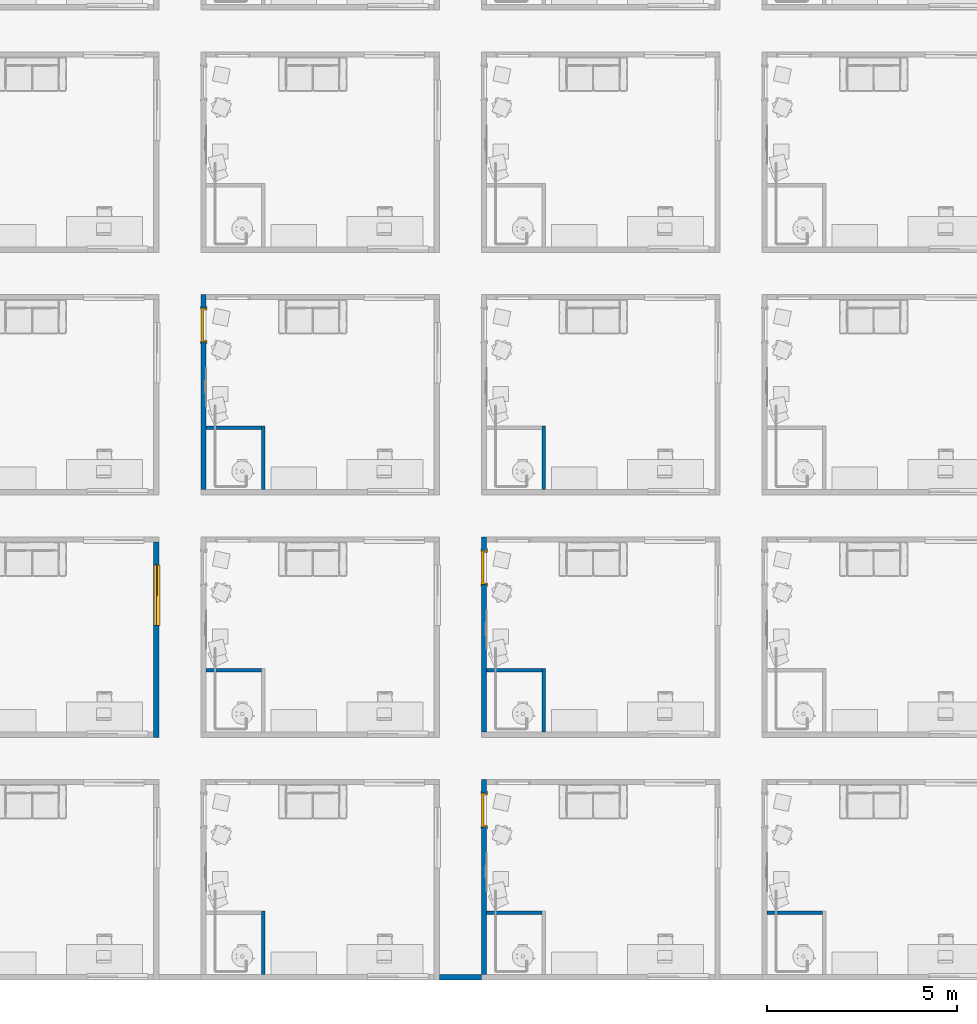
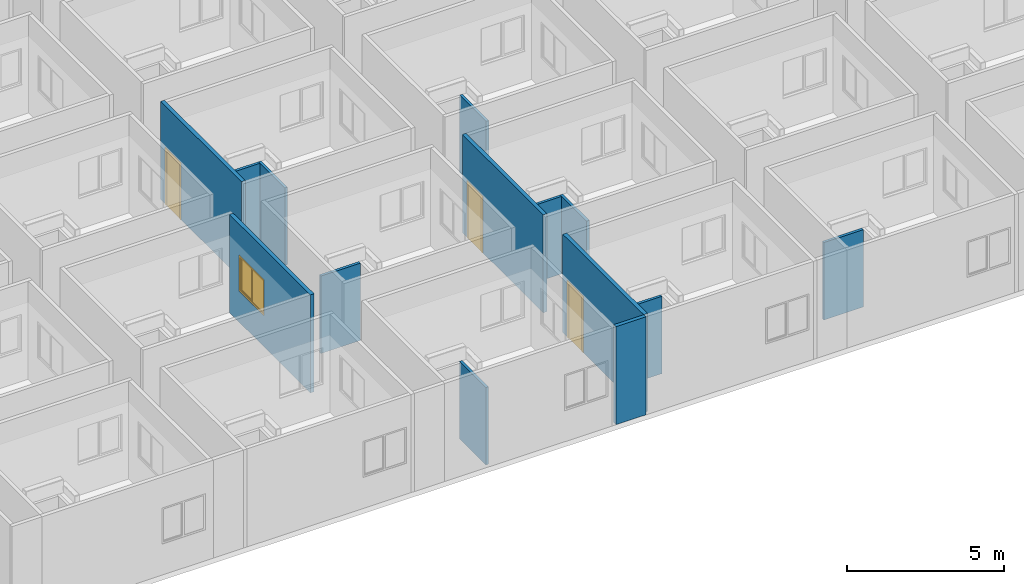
# One storey, part 7 of 72: 14 walls, 3 doors, 1 window, 4 openings.
"""IFC4 building model written with IfcOpenShell, lengths in centimetres."""

from ifc_helpers import new_model, entity, si_unit, converted_unit, derived_unit, direction, frame, origin, place, context, subcontext, project, spatial, indexed_curve, outline, extrude, polygons, source, transform, mapped, material, constituent, constituent_set, type_object, type_shapes, element, fill, save


model = new_model("IFC4")

# Units and contexts
model_context = context("Model", 3, precision=0.001, world=origin(), true_north=direction((6.123233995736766e-17, 1.0)))
body_context = subcontext(model_context, "Body", "Model", "MODEL_VIEW")
ifc_project = project(units=[si_unit("LENGTHUNIT", "METRE", prefix="CENTI"), si_unit("AREAUNIT", "SQUARE_METRE"), si_unit("VOLUMEUNIT", "CUBIC_METRE"), derived_unit("THERMALTRANSMITTANCEUNIT", [(si_unit("MASSUNIT", "GRAM", prefix="KILO"), 1), (si_unit("THERMODYNAMICTEMPERATUREUNIT", "KELVIN"), -1), (si_unit("TIMEUNIT", "SECOND"), -3)]), converted_unit("PLANEANGLEUNIT", "DEGREE", entity("IfcPlaneAngleMeasure", 0.017453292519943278), si_unit("PLANEANGLEUNIT", "RADIAN"), dimensions=[0, 0, 0, 0, 0, 0, 0]), derived_unit("MASSDENSITYUNIT", [(si_unit("MASSUNIT", "GRAM", prefix="KILO"), 1), (si_unit("LENGTHUNIT", "METRE"), -3)]), derived_unit("VAPORPERMEABILITYUNIT", [(si_unit("LENGTHUNIT", "METRE"), -1), (si_unit("TIMEUNIT", "SECOND"), 1)]), derived_unit("USERDEFINED", [(si_unit("MASSUNIT", "GRAM", prefix="KILO"), 1), (si_unit("TIMEUNIT", "SECOND"), -3), (si_unit("LENGTHUNIT", "METRE"), 3), (si_unit("ELECTRICCURRENTUNIT", "AMPERE"), -2)]), derived_unit("SPECIFICHEATCAPACITYUNIT", [(si_unit("THERMODYNAMICTEMPERATUREUNIT", "KELVIN"), -1), (si_unit("LENGTHUNIT", "METRE"), 2), (si_unit("TIMEUNIT", "SECOND"), -2)]), derived_unit("THERMALCONDUCTANCEUNIT", [(si_unit("MASSUNIT", "GRAM", prefix="KILO"), 1), (si_unit("THERMODYNAMICTEMPERATUREUNIT", "KELVIN"), -1), (si_unit("TIMEUNIT", "SECOND"), -3), (si_unit("LENGTHUNIT", "METRE"), 1)]), si_unit("PRESSUREUNIT", "PASCAL"), derived_unit("MODULUSOFELASTICITYUNIT", [(si_unit("MASSUNIT", "GRAM", prefix="KILO"), 1), (si_unit("LENGTHUNIT", "METRE"), -1), (si_unit("TIMEUNIT", "SECOND"), -2)]), derived_unit("THERMALEXPANSIONCOEFFICIENTUNIT", [(si_unit("THERMODYNAMICTEMPERATUREUNIT", "KELVIN"), -1)])], contexts=[model_context])

# Site, building, storey
site_placement = place(None, origin())
site = spatial("IfcSite", under=ifc_project, at=site_placement, Name="Default", CompositionType="ELEMENT")
building_placement = place(site_placement, origin())
building = spatial("IfcBuilding", under=site, at=building_placement, Name="IDS Escape Game Building", CompositionType="ELEMENT")
storey_placement = place(building_placement, frame((0.0, 0.0, 800.0)))
storey = spatial("IfcBuildingStorey", under=building, at=storey_placement, Name="02_Second Floor", CompositionType="ELEMENT", Elevation=800.0)

# Wall, opening, door
ifc_material_1 = material(Name="ARC_FME.g2_Fg2 Masonry_00_gen_BERSnl", Category="g - klei")
wall_type_1 = type_object("IfcWallType", Name="Basic Wall:ARC_22.10_WA_LB_SB14_gen_BERSnl", PredefinedType="STANDARD")
wall_1_placement = place(storey_placement, frame((2214.0, 527.0, 0.0), z_axis=(0.0, 0.0, 1.0), x_axis=(0.0, -1.0, 0.0)))
wall_1 = element("IfcWall", 1, at=wall_1_placement, inside=storey, type_object=wall_type_1, material=ifc_material_1, Name="Basic Wall:ARC_22.10_WA_LB_SB14_gen_BERSnl", ObjectType="Basic Wall:ARC_22.10_WA_LB_SB14_gen_BERSnl", PredefinedType="NOTDEFINED", context=body_context, shape_type="Tessellation", body=[
    polygons([(513.9999999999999, -6.999999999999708, 379.9999999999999), (0.0, -6.999999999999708, 379.9999999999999), (0.0, -6.999999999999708, -1.0828671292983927e-13), (35.999999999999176, -6.999999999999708, -1.0828671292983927e-13), (35.999999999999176, -6.999999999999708, 215.00000000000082), (125.99999999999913, -6.999999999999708, 215.00000000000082), (125.99999999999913, -6.999999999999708, -1.0828671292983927e-13), (513.9999999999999, -6.999999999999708, -1.0828671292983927e-13), (0.0, 7.000000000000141, 379.9999999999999), (13.999999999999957, 7.000000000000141, 379.9999999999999), (513.9999999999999, 7.000000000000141, 379.9999999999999), (513.9999999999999, 7.000000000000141, -1.0828671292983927e-13), (355.999999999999, 7.000000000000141, -1.0828671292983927e-13), (345.999999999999, 7.000000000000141, -1.0828671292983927e-13), (125.99999999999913, 7.000000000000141, -1.0828671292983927e-13), (125.99999999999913, 7.000000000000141, 215.00000000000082), (35.999999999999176, 7.000000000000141, 215.00000000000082), (35.999999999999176, 7.000000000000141, -1.0828671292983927e-13), (13.999999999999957, 7.000000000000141, -1.0828671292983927e-13), (0.0, 7.000000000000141, -1.0828671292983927e-13)], [[[1, 2, 3, 4, 5, 6, 7, 8]], [[9, 10, 11, 12, 13, 14, 15, 16, 17, 18, 19, 20]], [[3, 20, 19, 18, 4]], [[2, 1, 11, 10, 9]], [[17, 5, 4, 18]], [[6, 16, 15, 7]], [[5, 17, 16, 6]], [[3, 2, 9, 20]], [[1, 8, 12, 11]], [[12, 8, 7, 15, 14, 13]]], closed=True),
])
opening_1_placement = place(wall_1_placement, frame((527.0, -2214.0, 0.0), z_axis=(0.0, 0.0, 1.0), x_axis=(0.0, 1.0, 0.0)))
opening_1 = element("IfcOpeningElement", 2, at=opening_1_placement, cuts=wall_1, Name="Basic Wall:ARC_22.10_WA_LB_SB14_gen_BERSnl", PredefinedType="OPENING", context=body_context, shape_type="SweptSolid", body=[
    extrude(outline(indexed_curve([(-137.49999999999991, -45.0), (137.49999999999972, -45.0), (137.49999999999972, 44.99999999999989), (-137.49999999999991, 44.99999999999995), (-137.49999999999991, -45.0)], self_intersect=False)), frame((2124.0, 446.0, 77.50000000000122), z_axis=(1.0, 0.0, 0.0), x_axis=(0.0, 0.0, 1.0)), (0.0, 0.0, 1.0), 166.00000000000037),
])
ifc_material_2 = material(Name="ARC_FME.i3_wood_00_gen_BERSnl", Category="i - hout")
door_type = type_object("IfcDoorType", Name="ARC_32.30_DO_WB_binnendeur enkel draaiend met void_gen_BERSnl:Fire Exit_830x2115_EI60", OperationType="SINGLE_SWING_RIGHT", PredefinedType="DOOR", material=ifc_material_2)
shared_shape_1 = source(origin(), body_context, "Body", "Tessellation", [
    extrude(outline(indexed_curve([(-41.49999999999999, -3.749999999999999), (41.49999999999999, -3.749999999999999), (41.49999999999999, 3.75), (-41.49999999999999, 3.75), (-41.49999999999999, -3.749999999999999)], self_intersect=False)), frame((45.0, 79.24999999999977, 60.0), z_axis=(0.0, 0.0, 1.0), x_axis=(-1.0, 0.0, 0.0)), (0.0, 0.0, 1.0), 211.50000000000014),
    polygons([(88.99999999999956, 82.99999999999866, 59.999999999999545), (88.9999999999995, 67.99999999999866, 59.999999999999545), (94.99999999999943, 67.99999999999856, 59.999999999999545), (94.99999999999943, 66.49999999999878, 59.999999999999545), (84.99999999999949, 66.4999999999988, 59.999999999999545), (84.99999999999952, 75.49999999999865, 59.999999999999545), (86.49999999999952, 75.49999999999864, 59.999999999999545), (86.49999999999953, 84.49999999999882, 59.999999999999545), (94.99999999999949, 84.49999999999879, 59.999999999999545), (94.99999999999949, 82.99999999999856, 59.999999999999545), (88.99999999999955, 82.99999999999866, 274.0000000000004), (88.9999999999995, 67.99999999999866, 274.0000000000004), (0.9999999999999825, 67.99999999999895, 274.0000000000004), (0.9999999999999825, 67.99999999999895, 59.99999999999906), (-4.999999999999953, 67.99999999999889, 59.99999999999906), (-4.999999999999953, 67.99999999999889, 280.00000000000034), (94.99999999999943, 67.99999999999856, 280.00000000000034), (94.99999999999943, 66.49999999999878, 280.00000000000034), (-4.999999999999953, 66.4999999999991, 280.00000000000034), (-4.999999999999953, 66.4999999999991, 59.99999999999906), (4.999999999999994, 66.49999999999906, 59.99999999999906), (4.999999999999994, 66.49999999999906, 270.00000000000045), (84.99999999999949, 66.4999999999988, 270.00000000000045), (84.99999999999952, 75.49999999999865, 270.00000000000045), (5.000000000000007, 75.4999999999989, 270.00000000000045), (5.0, 75.4999999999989, 59.99999999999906), (3.5000000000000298, 75.4999999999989, 59.99999999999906), (3.500000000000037, 75.4999999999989, 271.50000000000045), (86.4999999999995, 75.49999999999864, 271.50000000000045), (86.49999999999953, 84.49999999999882, 271.50000000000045), (3.5000000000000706, 84.49999999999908, 271.50000000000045), (3.500000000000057, 84.49999999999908, 59.99999999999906), (-4.999999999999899, 84.4999999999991, 59.99999999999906), (-4.999999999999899, 84.4999999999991, 280.00000000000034), (94.99999999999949, 84.49999999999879, 280.00000000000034), (94.99999999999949, 82.99999999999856, 280.00000000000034), (-4.999999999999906, 82.99999999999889, 280.00000000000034), (-4.999999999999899, 82.99999999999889, 59.99999999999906), (1.0000000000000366, 82.99999999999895, 59.99999999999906), (1.0000000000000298, 82.99999999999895, 274.0000000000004)], [[[1, 2, 3, 4, 5, 6, 7, 8, 9, 10]], [[2, 1, 11, 12]], [[3, 2, 12, 13, 14, 15, 16, 17]], [[4, 3, 17, 18]], [[5, 4, 18, 19, 20, 21, 22, 23]], [[6, 5, 23, 24]], [[7, 6, 24, 25, 26, 27, 28, 29]], [[8, 7, 29, 30]], [[9, 8, 30, 31, 32, 33, 34, 35]], [[10, 9, 35, 36]], [[1, 10, 36, 37, 38, 39, 40, 11]], [[37, 34, 33, 38]], [[39, 38, 33, 32, 27, 26, 21, 20, 15, 14]], [[13, 40, 39, 14]], [[31, 28, 27, 32]], [[25, 22, 21, 26]], [[19, 16, 15, 20]], [[36, 35, 34, 37]], [[30, 29, 28, 31]], [[24, 23, 22, 25]], [[18, 17, 16, 19]], [[12, 11, 40, 13]]], closed=True),
])
type_shapes(door_type, [shared_shape_1])
door_1_placement = place(opening_1_placement, frame((2290.0, 401.0, -60.0), z_axis=(0.0, 0.0, 1.0), x_axis=(0.0, 1.0, 0.0)))
door_1 = element("IfcDoor", 3, at=door_1_placement, inside=storey, type_object=door_type, material=ifc_material_2, Name="ARC_32.30_DO_WB_binnendeur enkel draaiend met void_gen_BERSnl:Fire Exit_830x2115_EI60", ObjectType="ARC_32.30_DO_WB_binnendeur enkel draaiend met void_gen_BERSnl:Fire Exit_830x2115_EI60", OverallHeight=274.99999999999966, OverallWidth=89.9999999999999, PredefinedType="DOOR", context=body_context, shape_type="MappedRepresentation", body=[
    mapped(shared_shape_1, transform((0.0, 0.0, 0.0), scale=1.0)),
])
fill(opening_1, door_1)

# Wall, opening, window
wall_2_placement = place(storey_placement, frame((1352.0, 637.0, 0.0), z_axis=(0.0, 0.0, 1.0), x_axis=(0.0, 1.0, 0.0)))
wall_2 = element("IfcWall", 4, at=wall_2_placement, inside=storey, type_object=wall_type_1, material=ifc_material_1, Name="Basic Wall:ARC_22.10_WA_LB_SB14_gen_BERSnl", ObjectType="Basic Wall:ARC_22.10_WA_LB_SB14_gen_BERSnl", PredefinedType="NOTDEFINED", context=body_context, shape_type="Tessellation", body=[
    polygons([(0.0, -7.000000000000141, -1.0828671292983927e-13), (514.0, -7.000000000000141, -1.0828671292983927e-13), (514.0, -7.000000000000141, 379.9999999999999), (0.0, -7.000000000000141, 379.9999999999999), (454.00000000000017, -6.9999999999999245, 260.00000000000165), (454.0000000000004, -7.000000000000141, 119.9999999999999), (294.0000000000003, -7.000000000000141, 119.9999999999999), (294.0000000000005, -6.9999999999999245, 260.00000000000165), (454.0000000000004, 7.000000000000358, 119.9999999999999), (454.0000000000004, 7.000000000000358, 260.0000000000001), (294.0000000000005, 7.000000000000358, 260.0000000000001), (294.0000000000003, 7.000000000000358, 119.9999999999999), (0.0, 6.9999999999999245, -1.0828671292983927e-13), (0.0, 6.9999999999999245, 379.9999999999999), (13.999999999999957, 6.9999999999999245, 379.9999999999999), (514.0, 6.9999999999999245, 379.9999999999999), (514.0, 6.9999999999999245, -1.0828671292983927e-13), (13.999999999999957, 6.9999999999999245, -1.0828671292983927e-13)], [[[1, 2, 3, 4], [5, 6, 7, 8]], [[13, 14, 15, 16, 17, 18], [9, 10, 11, 12]], [[2, 1, 13, 18, 17]], [[4, 3, 16, 15, 14]], [[10, 9, 6, 5]], [[7, 12, 11, 8]], [[10, 5, 8, 11]], [[12, 7, 6, 9]], [[1, 4, 14, 13]], [[3, 2, 17, 16]]], closed=True),
])
opening_2_placement = place(wall_2_placement, frame((-637.0, 1352.0, 120.0), z_axis=(0.0, 0.0, 1.0), x_axis=(0.0, -1.0, 0.0)))
opening_2 = element("IfcOpeningElement", 5, at=opening_2_placement, cuts=wall_2, Name="Basic Wall:ARC_22.10_WA_LB_SB14_gen_BERSnl", PredefinedType="OPENING", context=body_context, shape_type="Tessellation", body=[
    polygons([(1345.0000000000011, 1090.9999999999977, 0.0), (1345.0000000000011, 1090.9999999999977, -0.9999999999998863), (1340.0000000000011, 1090.9999999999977, -0.9999999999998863), (1340.0000000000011, 1090.9999999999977, 0.0), (1345.0000000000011, 930.9999999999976, 0.0), (1340.0000000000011, 930.9999999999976, 0.0), (1340.0000000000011, 930.9999999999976, -0.9999999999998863), (1345.0000000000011, 930.9999999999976, -0.9999999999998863), (1345.0000000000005, 1085.9999999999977, 1.1368683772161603e-13), (1345.0000000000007, 935.999999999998, 1.1368683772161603e-13), (1340.0000000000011, 935.9999999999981, 0.0), (1339.9999999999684, 935.9999999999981, 134.99999999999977), (1339.9999999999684, 1085.9999999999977, 134.99999999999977), (1340.0000000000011, 1085.9999999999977, 0.0), (1364.0368251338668, 1090.9999999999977, 0.0), (1344.9999999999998, 1090.9999999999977, 1.1368683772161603e-13), (1344.9999999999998, 1090.9999999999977, 140.0000000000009), (1364.0368251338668, 1090.9999999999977, 140.00000000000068), (1364.0368251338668, 930.9999999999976, 140.00000000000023), (1344.9999999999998, 930.9999999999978, 140.00000000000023), (1344.9999999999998, 930.9999999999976, 0.0), (1364.0368251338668, 930.9999999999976, 1.1368683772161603e-13), (1344.9999999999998, 1085.9999999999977, 134.99999999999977), (1344.9999999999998, 935.9999999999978, 134.99999999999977)], [[[1, 2, 3, 4]], [[5, 6, 7, 8]], [[1, 9, 10, 5, 8, 2]], [[2, 8, 7, 3]], [[3, 7, 6, 11, 12, 13, 14, 4]], [[4, 14, 9, 1]], [[15, 16, 17, 18]], [[19, 20, 21, 22]], [[18, 17, 20, 19]], [[18, 19, 22, 15]], [[17, 16, 9, 23, 24, 10, 21, 20]], [[22, 21, 10, 9, 16, 15]], [[11, 10, 24, 12]], [[13, 23, 9, 14]], [[12, 24, 23, 13]], [[5, 10, 11, 6]]], closed=True),
])
ifc_material_3 = material(Name="<Unnamed>")
ifc_constituent_1 = constituent(ifc_material_3, Name="<Unnamed>", fraction=0.0)
ifc_material_4 = material(Name="ARC_FME.o1_glass_00_gen_BERSnl", Category="o - glas")
ifc_constituent_2 = constituent(ifc_material_4, Name="ARC_FME.o1_glass_00_gen_BERSnl", Category="o - glas", fraction=1.0)
ifc_constituent_set_1 = constituent_set(constituents=[ifc_constituent_1, ifc_constituent_2])
ifc_constituent_3 = constituent(ifc_material_3, Name="BE Tablet", fraction=0.0)
ifc_constituent_4 = constituent(ifc_material_3, Name="Frame/Mullion", fraction=0.0)
ifc_constituent_5 = constituent(ifc_material_4, Name="Glass", Category="o - glas", fraction=1.0)
ifc_constituent_set_2 = constituent_set(constituents=[ifc_constituent_3, ifc_constituent_4, ifc_constituent_5])
window_type = type_object("IfcWindowType", Name="ARC_31_WI_WB_Dubbel Raam-Recht-Vast en Draaiend_gen_BERSnl:Links-Draaiend / Rechts-Draaiend", PartitioningType="NOTDEFINED", PredefinedType="WINDOW", material=ifc_constituent_set_2)
shared_shape_2 = source(origin(), body_context, "Body", "Tessellation", [
    extrude(outline(indexed_curve([(-80.00000000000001, -4.999999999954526), (80.00000000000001, -4.999999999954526), (80.00000000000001, 4.999999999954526), (-80.00000000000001, 4.999999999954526), (-80.00000000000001, -4.999999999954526)], self_intersect=False)), frame((80.0, 7.036825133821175, 1.0), z_axis=(0.0, 0.0, 1.0), x_axis=(-1.0, 0.0, 0.0)), (0.0, 0.0, 1.0), 2.000000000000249),
    extrude(outline(indexed_curve([(-2.9999999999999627, -3.000000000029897), (-7.656209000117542e-14, -3.000000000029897), (-7.064016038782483e-14, 5.979964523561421e-11), (3.0000000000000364, 5.978991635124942e-11), (3.0000000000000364, 2.9999999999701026), (-2.9999999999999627, 2.9999999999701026), (-2.9999999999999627, -3.000000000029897)], self_intersect=False)), frame((80.0, 15.03682513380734, 7.0)), (0.0, 0.0, 1.0), 128.00000000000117),
    extrude(outline(indexed_curve([(-35.499999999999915, -1.2000000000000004), (35.499999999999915, -1.2000000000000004), (35.49999999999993, 1.2), (-35.499999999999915, 1.2), (-35.499999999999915, -1.2000000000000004)], self_intersect=False)), frame((41.50000000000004, 15.036825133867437, 7.0), z_axis=(0.0, 0.0, 1.0), x_axis=(-1.0, 0.0, 0.0)), (0.0, 0.0, 1.0), 128.000000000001),
    extrude(outline(indexed_curve([(-67.00000000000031, -38.500000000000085), (67.00000000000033, -38.5000000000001), (67.00000000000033, 38.50000000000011), (-67.00000000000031, 38.50000000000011), (-67.00000000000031, -38.500000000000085)], self_intersect=False), holes=[indexed_curve([(61.00000000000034, -32.50000000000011), (-61.00000000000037, -32.500000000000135), (-61.00000000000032, 32.50000000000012), (61.00000000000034, 32.50000000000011), (61.00000000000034, -32.50000000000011)], self_intersect=False)]), frame((118.5, 9.03682513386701, 71.0), z_axis=(0.0, 1.0, 0.0), x_axis=(0.0, 0.0, -1.0)), (0.0, 0.0, 1.0), 6.0),
    extrude(outline(indexed_curve([(-32.500000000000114, -1.2000000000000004), (32.500000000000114, -1.2000000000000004), (32.500000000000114, 1.2000000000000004), (-32.500000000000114, 1.2000000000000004), (-32.500000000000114, -1.2000000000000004)], self_intersect=False)), frame((118.5, 12.036825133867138, 10.0), z_axis=(0.0, 0.0, 1.0), x_axis=(-1.0, 0.0, 0.0)), (0.0, 0.0, 1.0), 122.00000000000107),
    polygons([(160.00000000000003, 18.03682513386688, 141.00000000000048), (160.00000000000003, 18.03682513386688, 1.0000000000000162), (4.0607517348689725e-14, 18.036825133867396, 1.0000000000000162), (4.0607517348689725e-14, 18.036825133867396, 141.00000000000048), (6.000000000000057, 18.03682513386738, 135.00000000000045), (6.000000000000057, 18.03682513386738, 7.000000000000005), (76.99999999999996, 18.03682513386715, 7.000000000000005), (154.00000000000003, 18.0368251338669, 7.000000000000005), (154.00000000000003, 18.0368251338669, 135.00000000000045), (76.99999999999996, 18.03682513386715, 135.00000000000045), (160.0, 12.03682513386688, 141.00000000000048), (160.0, 12.03682513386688, 1.0000000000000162), (2.7071678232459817e-14, 12.036825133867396, 1.0000000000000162), (2.7071678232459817e-14, 12.036825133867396, 141.00000000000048), (6.000000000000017, 12.036825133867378, 135.00000000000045), (6.000000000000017, 12.036825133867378, 7.000000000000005), (76.99999999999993, 12.036825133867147, 7.000000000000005), (79.99999999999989, 12.036825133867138, 7.000000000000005), (79.9999999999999, 15.036825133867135, 7.000000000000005), (154.00000000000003, 15.0368251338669, 7.000000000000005), (154.00000000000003, 15.036825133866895, 135.00000000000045), (76.99999999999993, 12.036825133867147, 135.00000000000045), (79.99999999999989, 12.036825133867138, 135.00000000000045), (79.99999999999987, 12.036825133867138, 138.00000000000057), (157.00000000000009, 12.036825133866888, 138.00000000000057), (157.00000000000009, 12.036825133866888, 3.9999999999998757), (79.99999999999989, 12.036825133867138, 3.9999999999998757), (157.0000000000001, 15.036825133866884, 3.9999999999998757), (157.0000000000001, 15.036825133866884, 138.00000000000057), (79.99999999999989, 15.036825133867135, 3.9999999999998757), (79.99999999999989, 15.036825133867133, 138.00000000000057), (79.99999999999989, 15.036825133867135, 135.00000000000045)], [[[1, 2, 3, 4], [5, 6, 7, 8, 9, 10]], [[2, 1, 11, 12]], [[3, 2, 12, 13]], [[4, 3, 13, 14]], [[6, 5, 15, 16]], [[6, 16, 17, 18, 19, 20, 8, 7]], [[9, 8, 20, 21]], [[11, 14, 13, 12], [16, 15, 22, 23, 24, 25, 26, 27, 18, 17]], [[28, 26, 25, 29]], [[30, 27, 26, 28]], [[31, 24, 23, 32]], [[30, 28, 29, 31, 32, 21, 20, 19]], [[1, 4, 14, 11]], [[15, 5, 10, 9, 21, 32, 23, 22]], [[24, 31, 29, 25]], [[27, 30, 19, 18]]], closed=True),
])
type_shapes(window_type, [shared_shape_2])
window_placement = place(opening_2_placement, frame((1364.0368251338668, 931.0, -1.0), z_axis=(0.0, 0.0, 1.0), x_axis=(0.0, 1.0, 0.0)))
window = element("IfcWindow", 6, at=window_placement, inside=storey, type_object=window_type, material=ifc_constituent_set_1, Name="ARC_31_WI_WB_Dubbel Raam-Recht-Vast en Draaiend_gen_BERSnl:Links-Draaiend / Rechts-Draaiend", ObjectType="ARC_31_WI_WB_Dubbel Raam-Recht-Vast en Draaiend_gen_BERSnl:Links-Draaiend / Rechts-Draaiend", OverallHeight=140.00000000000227, OverallWidth=160.0000000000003, PartitioningType="NOTDEFINED", PredefinedType="WINDOW", context=body_context, shape_type="MappedRepresentation", body=[
    mapped(shared_shape_2, transform((0.0, 0.0, 0.0), scale=1.0)),
])
fill(opening_2, window)

# Wall, opening, door
wall_3_placement = place(storey_placement, frame((2214.0, 1165.0, 0.0), z_axis=(0.0, 0.0, 1.0), x_axis=(0.0, -1.0, 0.0)))
wall_3 = element("IfcWall", 7, at=wall_3_placement, inside=storey, type_object=wall_type_1, material=ifc_material_1, Name="Basic Wall:ARC_22.10_WA_LB_SB14_gen_BERSnl", ObjectType="Basic Wall:ARC_22.10_WA_LB_SB14_gen_BERSnl", PredefinedType="NOTDEFINED", context=body_context, shape_type="Tessellation", body=[
    polygons([(514.0000000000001, -6.999999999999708, 379.9999999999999), (0.0, -6.999999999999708, 379.9999999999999), (0.0, -6.999999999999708, -1.0828671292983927e-13), (35.999999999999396, -6.999999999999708, -1.0828671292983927e-13), (35.999999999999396, -6.999999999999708, 215.00000000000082), (125.99999999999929, -6.999999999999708, 215.00000000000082), (125.99999999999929, -6.999999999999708, -1.0828671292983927e-13), (514.0000000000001, -6.999999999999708, -1.0828671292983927e-13), (0.0, 7.000000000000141, 379.9999999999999), (14.000000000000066, 7.000000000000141, 379.9999999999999), (514.0000000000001, 7.000000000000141, 379.9999999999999), (514.0000000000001, 7.000000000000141, -1.0828671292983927e-13), (355.9999999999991, 7.000000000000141, -1.0828671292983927e-13), (345.9999999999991, 7.000000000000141, -1.0828671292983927e-13), (125.99999999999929, 7.000000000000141, -1.0828671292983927e-13), (125.99999999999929, 7.000000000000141, 215.00000000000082), (35.999999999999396, 7.000000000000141, 215.00000000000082), (35.999999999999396, 7.000000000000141, -1.0828671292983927e-13), (14.000000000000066, 7.000000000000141, -1.0828671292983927e-13), (0.0, 7.000000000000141, -1.0828671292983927e-13)], [[[1, 2, 3, 4, 5, 6, 7, 8]], [[9, 10, 11, 12, 13, 14, 15, 16, 17, 18, 19, 20]], [[3, 20, 19, 18, 4]], [[2, 1, 11, 10, 9]], [[17, 5, 4, 18]], [[6, 16, 15, 7]], [[5, 17, 16, 6]], [[3, 2, 9, 20]], [[1, 8, 12, 11]], [[12, 8, 7, 15, 14, 13]]], closed=True),
])
opening_3_placement = place(wall_3_placement, frame((1165.0, -2214.0, 0.0), z_axis=(0.0, 0.0, 1.0), x_axis=(0.0, 1.0, 0.0)))
opening_3 = element("IfcOpeningElement", 8, at=opening_3_placement, cuts=wall_3, Name="Basic Wall:ARC_22.10_WA_LB_SB14_gen_BERSnl", PredefinedType="OPENING", context=body_context, shape_type="SweptSolid", body=[
    extrude(outline(indexed_curve([(-137.49999999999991, -44.99999999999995), (137.49999999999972, -44.99999999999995), (137.49999999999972, 44.99999999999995), (-137.49999999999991, 44.99999999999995), (-137.49999999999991, -44.99999999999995)], self_intersect=False)), frame((2124.0, 1084.0, 77.50000000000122), z_axis=(1.0, 0.0, 0.0), x_axis=(0.0, 0.0, 1.0)), (0.0, 0.0, 1.0), 166.00000000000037),
])
door_2_placement = place(opening_3_placement, frame((2290.0, 1039.0, -60.0), z_axis=(0.0, 0.0, 1.0), x_axis=(0.0, 1.0, 0.0)))
door_2 = element("IfcDoor", 9, at=door_2_placement, inside=storey, type_object=door_type, material=ifc_material_2, Name="ARC_32.30_DO_WB_binnendeur enkel draaiend met void_gen_BERSnl:Fire Exit_830x2115_EI60", ObjectType="ARC_32.30_DO_WB_binnendeur enkel draaiend met void_gen_BERSnl:Fire Exit_830x2115_EI60", OverallHeight=274.99999999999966, OverallWidth=89.9999999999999, PredefinedType="DOOR", context=body_context, shape_type="MappedRepresentation", body=[
    mapped(shared_shape_1, transform((0.0, 0.0, 0.0), scale=1.0)),
])
fill(opening_3, door_2)

wall_4_placement = place(storey_placement, frame((1476.0, 1803.0, 0.0), z_axis=(0.0, 0.0, 1.0), x_axis=(0.0, -1.0, 0.0)))
wall_4 = element("IfcWall", 10, at=wall_4_placement, inside=storey, type_object=wall_type_1, material=ifc_material_1, Name="Basic Wall:ARC_22.10_WA_LB_SB14_gen_BERSnl", ObjectType="Basic Wall:ARC_22.10_WA_LB_SB14_gen_BERSnl", PredefinedType="NOTDEFINED", context=body_context, shape_type="Tessellation", body=[
    polygons([(514.0000000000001, -7.000000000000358, 379.9999999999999), (0.0, -7.000000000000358, 379.9999999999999), (0.0, -7.000000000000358, -1.0828671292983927e-13), (35.999999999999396, -7.000000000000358, -1.0828671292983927e-13), (35.99999999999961, -7.000000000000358, 215.00000000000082), (125.99999999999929, -7.000000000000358, 215.00000000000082), (125.99999999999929, -7.000000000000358, -1.0828671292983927e-13), (514.0000000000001, -7.000000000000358, -1.0828671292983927e-13), (0.0, 6.9999999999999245, 379.9999999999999), (14.000000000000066, 6.9999999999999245, 379.9999999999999), (514.0000000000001, 6.9999999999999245, 379.9999999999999), (514.0000000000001, 6.9999999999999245, -1.0828671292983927e-13), (355.999999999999, 6.9999999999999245, -1.0828671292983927e-13), (345.99999999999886, 6.9999999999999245, -1.0828671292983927e-13), (125.99999999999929, 6.9999999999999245, -1.0828671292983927e-13), (125.99999999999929, 6.9999999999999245, 215.00000000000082), (35.999999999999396, 6.9999999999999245, 215.00000000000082), (35.999999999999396, 6.9999999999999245, -1.0828671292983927e-13), (14.000000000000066, 6.9999999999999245, -1.0828671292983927e-13), (0.0, 6.9999999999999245, -1.0828671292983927e-13)], [[[1, 2, 3, 4, 5, 6, 7, 8]], [[9, 10, 11, 12, 13, 14, 15, 16, 17, 18, 19, 20]], [[3, 20, 19, 18, 4]], [[2, 1, 11, 10, 9]], [[17, 5, 4, 18]], [[6, 16, 15, 7]], [[5, 17, 16, 6]], [[3, 2, 9, 20]], [[1, 8, 12, 11]], [[12, 8, 7, 15, 14, 13]]], closed=True),
])
opening_4_placement = place(wall_4_placement, frame((1803.0, -1476.0, 0.0), z_axis=(0.0, 0.0, 1.0), x_axis=(0.0, 1.0, 0.0)))
opening_4 = element("IfcOpeningElement", 11, at=opening_4_placement, cuts=wall_4, Name="Basic Wall:ARC_22.10_WA_LB_SB14_gen_BERSnl", PredefinedType="OPENING", context=body_context, shape_type="SweptSolid", body=[
    extrude(outline(indexed_curve([(-137.49999999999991, -44.99999999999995), (137.49999999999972, -44.99999999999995), (137.49999999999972, 44.99999999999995), (-137.49999999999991, 44.99999999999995), (-137.49999999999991, -44.99999999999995)], self_intersect=False)), frame((1386.0, 1722.0, 77.50000000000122), z_axis=(1.0, 0.0, 0.0), x_axis=(0.0, 0.0, 1.0)), (0.0, 0.0, 1.0), 165.99999999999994),
])
door_3_placement = place(opening_4_placement, frame((1552.0, 1677.0, -60.0), z_axis=(0.0, 0.0, 1.0), x_axis=(0.0, 1.0, 0.0)))
door_3 = element("IfcDoor", 12, at=door_3_placement, inside=storey, type_object=door_type, material=ifc_material_2, Name="ARC_32.30_DO_WB_binnendeur enkel draaiend met void_gen_BERSnl:Fire Exit_830x2115_EI60", ObjectType="ARC_32.30_DO_WB_binnendeur enkel draaiend met void_gen_BERSnl:Fire Exit_830x2115_EI60", OverallHeight=274.99999999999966, OverallWidth=89.9999999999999, PredefinedType="DOOR", context=body_context, shape_type="MappedRepresentation", body=[
    mapped(shared_shape_1, transform((0.0, 0.0, 0.0), scale=1.0)),
])
fill(opening_4, door_3)

# Walls
wall_5_placement = place(storey_placement, frame((2207.0, 6.0, 0.0), z_axis=(0.0, 0.0, 1.0), x_axis=(-1.0, 0.0, 0.0)))
element("IfcWall", 13, at=wall_5_placement, inside=storey, type_object=wall_type_1, material=ifc_material_1, Name="Basic Wall:ARC_22.10_WA_LB_SB14_gen_BERSnl", ObjectType="Basic Wall:ARC_22.10_WA_LB_SB14_gen_BERSnl", PredefinedType="NOTDEFINED", context=body_context, shape_type="SweptSolid", body=[
    extrude(outline(indexed_curve([(110.00000000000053, 7.000000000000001), (-2.2611003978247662e-14, 7.0), (2.2611003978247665e-14, -7.000000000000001), (110.00000000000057, -7.000000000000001), (110.00000000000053, 7.000000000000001)], self_intersect=False)), origin(), (0.0, 0.0, 1.0), 380.0000000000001),
])
ifc_material_5 = material(Name="ARC_FME.r2_Plaster_white_gen_BERSnl", Category="r - klei, gips, magnesium en kunststof bindmiddelen")
wall_type_2 = type_object("IfcWallType", Name="Basic Wall:ARC_22.10_WA_LB_GPS10_gen_BERSnl", PredefinedType="STANDARD")
wall_6_placement = place(storey_placement, frame((1633.0, 13.0, 0.0), z_axis=(0.0, 0.0, 1.0), x_axis=(0.0, 1.0, 0.0)))
element("IfcWall", 14, at=wall_6_placement, inside=storey, type_object=wall_type_2, material=ifc_material_5, Name="Basic Wall:ARC_22.10_WA_LB_GPS10_gen_BERSnl", ObjectType="Basic Wall:ARC_22.10_WA_LB_GPS10_gen_BERSnl", PredefinedType="NOTDEFINED", context=body_context, shape_type="SweptSolid", body=[
    extrude(outline(indexed_curve([(168.00000000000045, 4.9999999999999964), (-1.1881077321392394e-15, 4.999999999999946), (-5.038721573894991e-16, -4.999999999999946), (168.00000000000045, -4.999999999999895), (168.00000000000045, 4.9999999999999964)], self_intersect=False)), origin(), (0.0, 0.0, 1.0), 300.0),
])
for number, where, z_axis, x_axis in (
    (15, (2366.0, 176.0, 0.0), (0.0, 0.0, 1.0), (-1.0, 0.0, 0.0)),
    (16, (3104.0, 176.0, 0.0), (0.0, 0.0, 1.0), (-1.0, 0.0, 0.0)),
):
    element("IfcWall", number, at=place(storey_placement, frame(where, z_axis=z_axis, x_axis=x_axis)), inside=storey, type_object=wall_type_2, material=ifc_material_5, Name="Basic Wall:ARC_22.10_WA_LB_GPS10_gen_BERSnl", ObjectType="Basic Wall:ARC_22.10_WA_LB_GPS10_gen_BERSnl", PredefinedType="NOTDEFINED", context=body_context, shape_type="SweptSolid", body=[
        extrude(outline(indexed_curve([(144.99999999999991, 5.000000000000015), (-1.6380951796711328e-14, 5.0), (1.6380951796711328e-14, -5.0), (144.99999999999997, -4.999999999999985), (144.99999999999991, 5.000000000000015)], self_intersect=False)), origin(), (0.0, 0.0, 1.0), 300.0),
    ])
wall_7_placement = place(storey_placement, frame((1628.0, 814.0, 0.0), z_axis=(0.0, 0.0, 1.0), x_axis=(-1.0, 0.0, 0.0)))
element("IfcWall", 17, at=wall_7_placement, inside=storey, type_object=wall_type_2, material=ifc_material_5, Name="Basic Wall:ARC_22.10_WA_LB_GPS10_gen_BERSnl", ObjectType="Basic Wall:ARC_22.10_WA_LB_GPS10_gen_BERSnl", PredefinedType="NOTDEFINED", context=body_context, shape_type="SweptSolid", body=[
    extrude(outline(indexed_curve([(145.00000000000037, 4.99999999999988), (-1.6380951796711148e-14, 4.999999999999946), (1.6380951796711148e-14, -4.999999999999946), (145.00000000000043, -5.000000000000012), (145.00000000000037, 4.99999999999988)], self_intersect=False)), origin(), (0.0, 0.0, 1.0), 300.0),
])
wall_8_placement = place(storey_placement, frame((2371.0, 651.0, 0.0), z_axis=(0.0, 0.0, 1.0), x_axis=(0.0, 1.0, 0.0)))
element("IfcWall", 18, at=wall_8_placement, inside=storey, type_object=wall_type_2, material=ifc_material_5, Name="Basic Wall:ARC_22.10_WA_LB_GPS10_gen_BERSnl", ObjectType="Basic Wall:ARC_22.10_WA_LB_GPS10_gen_BERSnl", PredefinedType="NOTDEFINED", context=body_context, shape_type="SweptSolid", body=[
    extrude(outline(indexed_curve([(168.00000000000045, 4.9999999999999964), (-7.956027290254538e-15, 5.0000000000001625), (7.956027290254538e-15, -5.0000000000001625), (168.00000000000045, -5.000000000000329), (168.00000000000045, 4.9999999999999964)], self_intersect=False)), origin(), (0.0, 0.0, 1.0), 300.0),
])
wall_9_placement = place(storey_placement, frame((2366.0, 814.0, 0.0), z_axis=(0.0, 0.0, 1.0), x_axis=(-1.0, 0.0, 0.0)))
element("IfcWall", 19, at=wall_9_placement, inside=storey, type_object=wall_type_2, material=ifc_material_5, Name="Basic Wall:ARC_22.10_WA_LB_GPS10_gen_BERSnl", ObjectType="Basic Wall:ARC_22.10_WA_LB_GPS10_gen_BERSnl", PredefinedType="NOTDEFINED", context=body_context, shape_type="SweptSolid", body=[
    extrude(outline(indexed_curve([(144.99999999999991, 4.99999999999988), (-1.6380951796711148e-14, 4.999999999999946), (1.6380951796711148e-14, -4.999999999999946), (144.99999999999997, -5.000000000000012), (144.99999999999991, 4.99999999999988)], self_intersect=False)), origin(), (0.0, 0.0, 1.0), 300.0),
])
wall_10_placement = place(storey_placement, frame((1633.0, 1289.0, 0.0), z_axis=(0.0, 0.0, 1.0), x_axis=(0.0, 1.0, 0.0)))
element("IfcWall", 20, at=wall_10_placement, inside=storey, type_object=wall_type_2, material=ifc_material_5, Name="Basic Wall:ARC_22.10_WA_LB_GPS10_gen_BERSnl", ObjectType="Basic Wall:ARC_22.10_WA_LB_GPS10_gen_BERSnl", PredefinedType="NOTDEFINED", context=body_context, shape_type="SweptSolid", body=[
    extrude(outline(indexed_curve([(168.0000000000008, 4.9999999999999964), (-7.956027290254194e-15, 4.999999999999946), (7.956027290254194e-15, -4.999999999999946), (168.0000000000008, -4.999999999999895), (168.0000000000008, 4.9999999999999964)], self_intersect=False)), origin(), (0.0, 0.0, 1.0), 300.0),
])
wall_11_placement = place(storey_placement, frame((1628.0, 1452.0, 0.0), z_axis=(0.0, 0.0, 1.0), x_axis=(-1.0, 0.0, 0.0)))
element("IfcWall", 21, at=wall_11_placement, inside=storey, type_object=wall_type_2, material=ifc_material_5, Name="Basic Wall:ARC_22.10_WA_LB_GPS10_gen_BERSnl", ObjectType="Basic Wall:ARC_22.10_WA_LB_GPS10_gen_BERSnl", PredefinedType="NOTDEFINED", context=body_context, shape_type="SweptSolid", body=[
    extrude(outline(indexed_curve([(145.00000000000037, 4.9999999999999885), (-1.6380951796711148e-14, 4.999999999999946), (1.6380951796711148e-14, -4.999999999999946), (145.00000000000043, -4.999999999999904), (145.00000000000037, 4.9999999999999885)], self_intersect=False)), origin(), (0.0, 0.0, 1.0), 300.0),
])
wall_12_placement = place(storey_placement, frame((2371.0, 1289.0, 0.0), z_axis=(0.0, 0.0, 1.0), x_axis=(0.0, 1.0, 0.0)))
element("IfcWall", 22, at=wall_12_placement, inside=storey, type_object=wall_type_2, material=ifc_material_5, Name="Basic Wall:ARC_22.10_WA_LB_GPS10_gen_BERSnl", ObjectType="Basic Wall:ARC_22.10_WA_LB_GPS10_gen_BERSnl", PredefinedType="NOTDEFINED", context=body_context, shape_type="SweptSolid", body=[
    extrude(outline(indexed_curve([(168.0000000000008, 4.9999999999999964), (-7.956027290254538e-15, 5.0000000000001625), (7.956027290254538e-15, -5.0000000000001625), (168.0000000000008, -5.000000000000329), (168.0000000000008, 4.9999999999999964)], self_intersect=False)), origin(), (0.0, 0.0, 1.0), 300.0),
])

save(model, "model.ifc")
